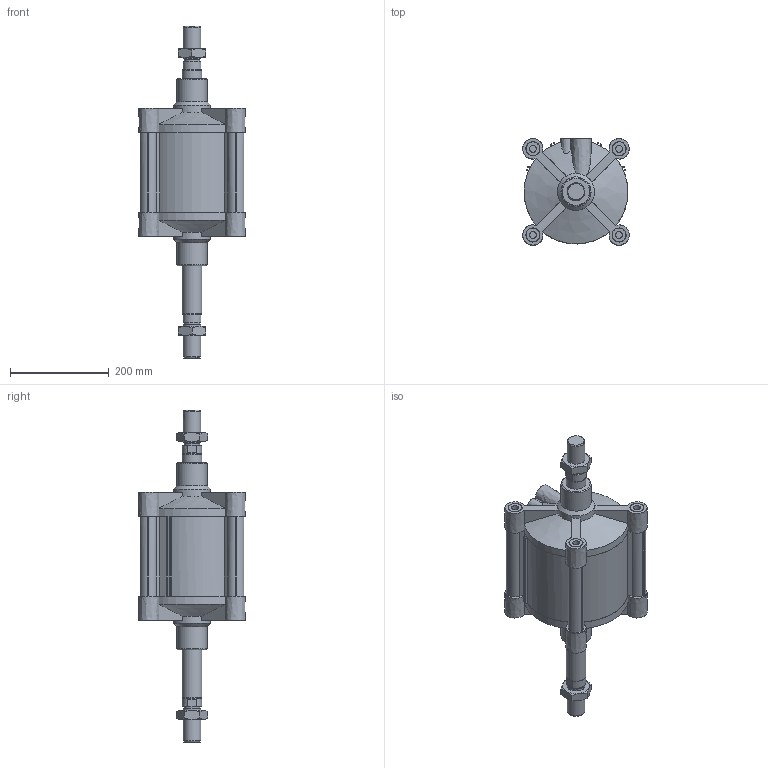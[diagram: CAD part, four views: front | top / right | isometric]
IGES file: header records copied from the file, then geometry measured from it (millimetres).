
Global section: file name: 139#_200_0080_02; native system: Autodesk Inventor 2014; preprocessor: unknown; author: F. Piloni; organization: Pneumax S.p.A.; date: 20151120.143156; units: millimetre
Bounding box: 216 x 216 x 674 mm (x, y, z)
Volume: 7104481.8 mm3; surface area: 858133.2 mm2
Topology: 6 solids, 6 shells, 324 faces, 844 edges, 567 vertices
Faces by surface type: bspline 324
